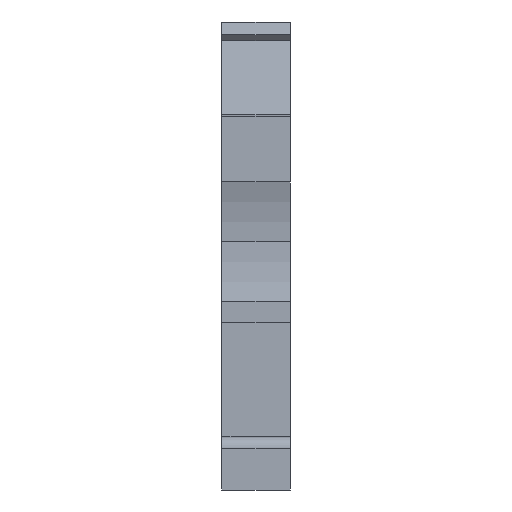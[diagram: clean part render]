
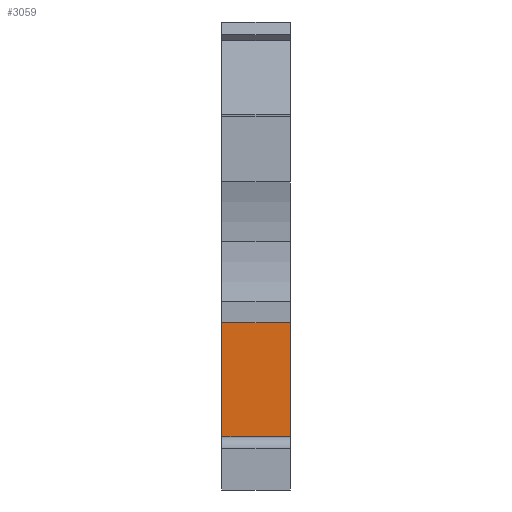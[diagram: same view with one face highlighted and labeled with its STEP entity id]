
A CAD part, front view. The second image highlights one B-rep face of the part: STEP entity #3059.
In plain terms, the highlighted planar face has unit normal (0, -1, 0).
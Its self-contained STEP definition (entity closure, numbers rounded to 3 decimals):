
#348=CARTESIAN_POINT('',(-5.15,3.6,4.));
#349=VERTEX_POINT('',#348);
#356=CARTESIAN_POINT('',(-5.15,3.6,12.6));
#357=VERTEX_POINT('',#356);
#358=CARTESIAN_POINT('',(-5.15,3.6,4.));
#359=DIRECTION('',(-0.,-0.,1.));
#360=VECTOR('',#359,8.6);
#361=LINE('',#358,#360);
#362=EDGE_CURVE('',#349,#357,#361,.T.);
#1121=CARTESIAN_POINT('',(0.,3.6,12.6));
#1122=VERTEX_POINT('',#1121);
#1129=CARTESIAN_POINT('',(0.,3.6,1.5));
#1130=VERTEX_POINT('',#1129);
#1131=CARTESIAN_POINT('',(0.,3.6,1.5));
#1132=DIRECTION('',(-0.,-0.,1.));
#1133=VECTOR('',#1132,11.1);
#1134=LINE('',#1131,#1133);
#1135=EDGE_CURVE('',#1130,#1122,#1134,.T.);
#1764=CARTESIAN_POINT('',(-4.15,3.6,4.));
#1765=VERTEX_POINT('',#1764);
#1774=CARTESIAN_POINT('',(-5.15,3.6,4.));
#1775=DIRECTION('',(1.,0.,0.));
#1776=VECTOR('',#1775,1.);
#1777=LINE('',#1774,#1776);
#1778=EDGE_CURVE('',#349,#1765,#1777,.T.);
#1834=CARTESIAN_POINT('',(-5.15,3.6,12.6));
#1835=DIRECTION('',(1.,-0.,0.));
#1836=VECTOR('',#1835,5.15);
#1837=LINE('',#1834,#1836);
#1838=EDGE_CURVE('',#357,#1122,#1837,.T.);
#3015=CARTESIAN_POINT('',(-4.15,3.6,1.5));
#3016=VERTEX_POINT('',#3015);
#3023=CARTESIAN_POINT('',(-4.15,3.6,1.5));
#3024=DIRECTION('',(-0.,-0.,1.));
#3025=VECTOR('',#3024,2.5);
#3026=LINE('',#3023,#3025);
#3027=EDGE_CURVE('',#3016,#1765,#3026,.T.);
#3041=CARTESIAN_POINT('',(-5.15,3.6,12.1));
#3042=DIRECTION('',(-0.,1.,-0.));
#3043=DIRECTION('',(-1.,-0.,-0.));
#3044=AXIS2_PLACEMENT_3D('',#3041,#3042,#3043);
#3045=PLANE('',#3044);
#3046=ORIENTED_EDGE('',*,*,#1135,.T.);
#3047=ORIENTED_EDGE('',*,*,#1838,.F.);
#3048=ORIENTED_EDGE('',*,*,#362,.F.);
#3049=ORIENTED_EDGE('',*,*,#1778,.T.);
#3050=ORIENTED_EDGE('',*,*,#3027,.F.);
#3051=CARTESIAN_POINT('',(0.,3.6,1.5));
#3052=DIRECTION('',(-1.,-0.,-0.));
#3053=VECTOR('',#3052,4.15);
#3054=LINE('',#3051,#3053);
#3055=EDGE_CURVE('',#1130,#3016,#3054,.T.);
#3056=ORIENTED_EDGE('',*,*,#3055,.F.);
#3057=EDGE_LOOP('',(#3046,#3047,#3048,#3049,#3050,#3056));
#3058=FACE_BOUND('',#3057,.T.);
#3059=ADVANCED_FACE('',(#3058),#3045,.F.);
